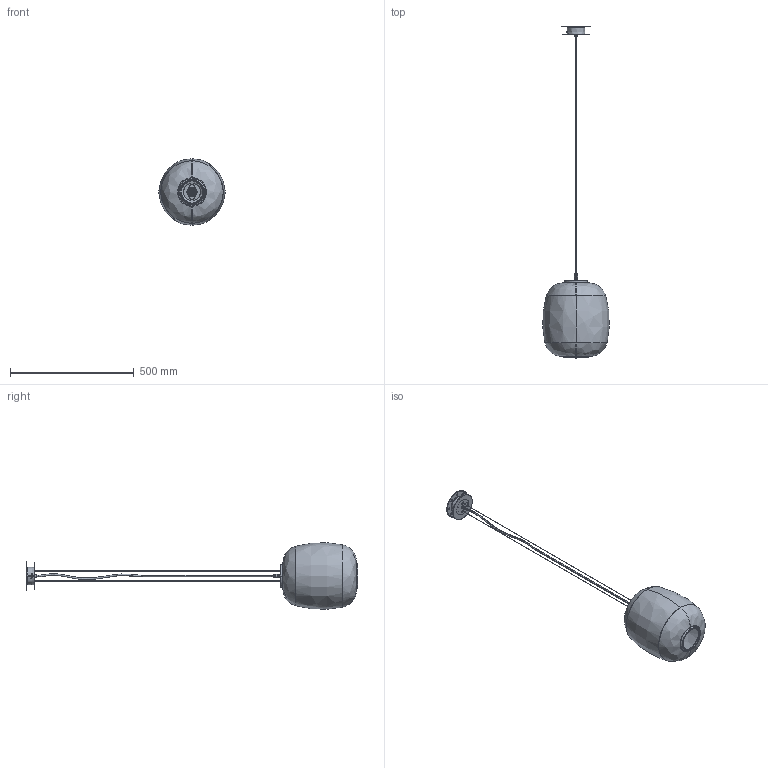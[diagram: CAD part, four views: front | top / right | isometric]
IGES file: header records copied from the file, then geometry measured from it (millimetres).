
Start section: SolidWorks IGES file using analytic representation for surfaces
Global section: file name: C:\Users\berta.gumma\OneDrive - santa &cole\Desktop\globo cesta ul.IGS; native system: SolidWorks 2021; preprocessor: SolidWorks 2021; author: berta.gumma; date: 230922.120707; units: millimetre
Bounding box: 269.01 x 1344 x 269.02 mm (x, y, z)
Surface area: 725226.2 mm2 (no closed solid volume)
Topology: 0 solids, 0 shells, 1509 faces, 16563 edges, 16561 vertices
Faces by surface type: revolution 823, bspline 686
